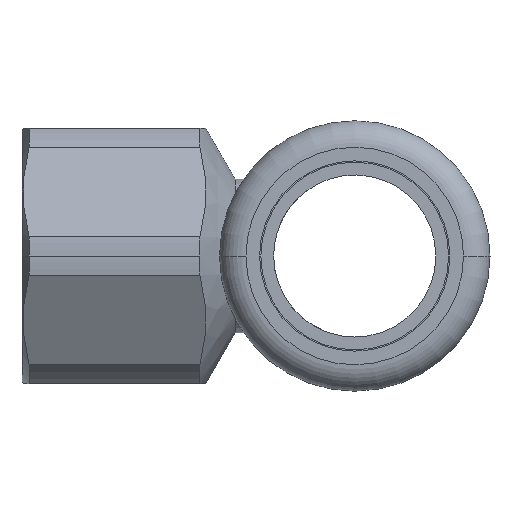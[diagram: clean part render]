
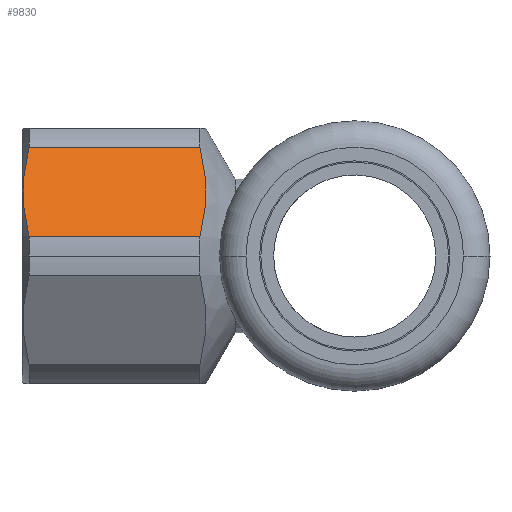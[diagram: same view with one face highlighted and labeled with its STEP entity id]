
A CAD part, left-side view. The second image highlights one B-rep face of the part: STEP entity #9830.
In plain terms, the highlighted planar face has unit normal (-0.866, 0, 0.5) as drawn and (0, -0.866, 0.5) by its records, which use the part's own axes.
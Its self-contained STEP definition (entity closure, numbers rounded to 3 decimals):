
#3220=CARTESIAN_POINT('',(-339.088,25.435,
0.));
#3230=DIRECTION('',(-1.,0.,0.));
#3240=DIRECTION('',(0.,0.,-1.));
#3250=AXIS2_PLACEMENT_3D('',#3220,#3230,#3240);
#3260=CONICAL_SURFACE('',#3250,19.04,1.047);
#3680=CARTESIAN_POINT('',(-355.937,25.435,0.));
#3690=DIRECTION('',(1.,0.,0.));
#3700=DIRECTION('',(0.,-1.,0.));
#3710=AXIS2_PLACEMENT_3D('',#3680,#3690,#3700);
#3720=CONICAL_SURFACE('',#3710,18.828,1.047);
#8500=CARTESIAN_POINT('',(-341.991,15.477,
12.753));
#8510=DIRECTION('',(0.,-0.866,0.5));
#8520=DIRECTION('',(0.,-0.5,-0.866));
#8530=AXIS2_PLACEMENT_3D('',#8500,#8510,#8520);
#8540=PLANE('',#8530);
#8550=CARTESIAN_POINT('',(-341.991,9.411,
2.247));
#8560=DIRECTION('',(-1.,0.,0.));
#8570=VECTOR('',#8560,1.);
#8580=LINE('',#8550,#8570);
#8590=CARTESIAN_POINT('',(-337.436,9.411,
2.247));
#8600=VERTEX_POINT('',#8590);
#8610=CARTESIAN_POINT('',(-357.465,9.411,
2.247));
#8620=VERTEX_POINT('',#8610);
#8630=EDGE_CURVE('',#8600,#8620,#8580,.T.);
#8640=ORIENTED_EDGE('',*,*,#8630,.F.);
#8650=CARTESIAN_POINT('',(-357.465,15.477,
12.753));
#8660=CARTESIAN_POINT('',(-357.519,15.353,
12.538));
#8670=CARTESIAN_POINT('',(-357.57,15.228,
12.322));
#8680=CARTESIAN_POINT('',(-357.619,15.103,
12.105));
#8690=CARTESIAN_POINT('',(-357.667,14.978,
11.889));
#8700=CARTESIAN_POINT('',(-357.712,14.853,
11.672));
#8710=CARTESIAN_POINT('',(-357.754,14.727,
11.454));
#8720=CARTESIAN_POINT('',(-357.797,14.601,
11.236));
#8730=CARTESIAN_POINT('',(-357.836,14.475,
11.018));
#8740=CARTESIAN_POINT('',(-357.872,14.349,
10.799));
#8750=CARTESIAN_POINT('',(-357.908,14.223,
10.58));
#8760=CARTESIAN_POINT('',(-357.94,14.096,
10.361));
#8770=CARTESIAN_POINT('',(-357.969,13.969,
10.142));
#8780=CARTESIAN_POINT('',(-357.999,13.843,
9.922));
#8790=CARTESIAN_POINT('',(-358.024,13.716,
9.702));
#8800=CARTESIAN_POINT('',(-358.046,13.589,
9.482));
#8810=CARTESIAN_POINT('',(-358.069,13.461,
9.262));
#8820=CARTESIAN_POINT('',(-358.087,13.334,
9.042));
#8830=CARTESIAN_POINT('',(-358.102,13.207,
8.821));
#8840=CARTESIAN_POINT('',(-358.117,13.08,
8.601));
#8850=CARTESIAN_POINT('',(-358.128,12.952,
8.38));
#8860=CARTESIAN_POINT('',(-358.136,12.825,
8.16));
#8870=CARTESIAN_POINT('',(-358.143,12.698,
7.939));
#8880=CARTESIAN_POINT('',(-358.147,12.57,
7.719));
#8890=CARTESIAN_POINT('',(-358.147,12.443,
7.498));
#8900=CARTESIAN_POINT('',(-358.147,12.316,
7.278));
#8910=CARTESIAN_POINT('',(-358.143,12.189,
7.057));
#8920=CARTESIAN_POINT('',(-358.135,12.062,
6.837));
#8930=CARTESIAN_POINT('',(-358.128,11.935,
6.617));
#8940=CARTESIAN_POINT('',(-358.117,11.808,
6.397));
#8950=CARTESIAN_POINT('',(-358.102,11.681,
6.177));
#8960=CARTESIAN_POINT('',(-358.087,11.554,
5.958));
#8970=CARTESIAN_POINT('',(-358.069,11.427,
5.738));
#8980=CARTESIAN_POINT('',(-358.047,11.3,
5.518));
#8990=CARTESIAN_POINT('',(-358.024,11.173,
5.298));
#9000=CARTESIAN_POINT('',(-357.999,11.046,
5.079));
#9010=CARTESIAN_POINT('',(-357.97,10.92,
4.86));
#9020=CARTESIAN_POINT('',(-357.941,10.793,
4.641));
#9030=CARTESIAN_POINT('',(-357.908,10.667,
4.422));
#9040=CARTESIAN_POINT('',(-357.872,10.541,
4.203));
#9050=CARTESIAN_POINT('',(-357.836,10.414,
3.984));
#9060=CARTESIAN_POINT('',(-357.797,10.288,
3.766));
#9070=CARTESIAN_POINT('',(-357.755,10.163,
3.548));
#9080=CARTESIAN_POINT('',(-357.713,10.037,
3.33));
#9090=CARTESIAN_POINT('',(-357.667,9.911,
3.113));
#9100=CARTESIAN_POINT('',(-357.619,9.786,
2.896));
#9110=CARTESIAN_POINT('',(-357.571,9.661,
2.679));
#9120=CARTESIAN_POINT('',(-357.519,9.536,
2.463));
#9130=CARTESIAN_POINT('',(-357.465,9.411,
2.247));
#9140=B_SPLINE_CURVE_WITH_KNOTS('',3,(#8650,#8660,#8670,#8680,#8690,
#8700,#8710,#8720,#8730,#8740,#8750,#8760,#8770,#8780,#8790,#8800,#8810,
#8820,#8830,#8840,#8850,#8860,#8870,#8880,#8890,#8900,#8910,#8920,#8930,
#8940,#8950,#8960,#8970,#8980,#8990,#9000,#9010,#9020,#9030,#9040,#9050,
#9060,#9070,#9080,#9090,#9100,#9110,#9120,#9130),.UNSPECIFIED.,.F.,.F.,(
4,3,3,3,3,3,3,3,3,3,3,3,3,3,3,3,4),(0.,0.763,
1.528,2.293,3.058,3.824,
4.589,5.354,6.118,6.881,
7.644,8.407,9.171,9.936,
10.701,11.466,12.231),.UNSPECIFIED.);
#9150=SURFACE_CURVE('',#9140,(#8540,#3720),.CURVE_3D.);
#9160=CARTESIAN_POINT('',(-357.465,15.477,
12.753));
#9170=VERTEX_POINT('',#9160);
#9180=EDGE_CURVE('',#9170,#8620,#9150,.T.);
#9190=ORIENTED_EDGE('',*,*,#9180,.T.);
#9200=CARTESIAN_POINT('',(-341.991,15.477,
12.753));
#9210=DIRECTION('',(-1.,0.,0.));
#9220=VECTOR('',#9210,1.);
#9230=LINE('',#9200,#9220);
#9240=CARTESIAN_POINT('',(-337.436,15.477,
12.753));
#9250=VERTEX_POINT('',#9240);
#9260=EDGE_CURVE('',#9250,#9170,#9230,.T.);
#9270=ORIENTED_EDGE('',*,*,#9260,.T.);
#9280=CARTESIAN_POINT('',(-337.436,9.411,
2.247));
#9290=CARTESIAN_POINT('',(-337.382,9.536,
2.463));
#9300=CARTESIAN_POINT('',(-337.331,9.661,
2.679));
#9310=CARTESIAN_POINT('',(-337.283,9.786,
2.896));
#9320=CARTESIAN_POINT('',(-337.235,9.911,
3.113));
#9330=CARTESIAN_POINT('',(-337.189,10.037,
3.33));
#9340=CARTESIAN_POINT('',(-337.147,10.163,
3.548));
#9350=CARTESIAN_POINT('',(-337.105,10.288,
3.766));
#9360=CARTESIAN_POINT('',(-337.066,10.414,
3.984));
#9370=CARTESIAN_POINT('',(-337.03,10.541,
4.203));
#9380=CARTESIAN_POINT('',(-336.994,10.667,
4.422));
#9390=CARTESIAN_POINT('',(-336.961,10.793,
4.64));
#9400=CARTESIAN_POINT('',(-336.932,10.92,
4.86));
#9410=CARTESIAN_POINT('',(-336.903,11.046,
5.079));
#9420=CARTESIAN_POINT('',(-336.877,11.173,
5.298));
#9430=CARTESIAN_POINT('',(-336.855,11.3,
5.518));
#9440=CARTESIAN_POINT('',(-336.833,11.427,
5.738));
#9450=CARTESIAN_POINT('',(-336.815,11.554,
5.957));
#9460=CARTESIAN_POINT('',(-336.8,11.68,
6.177));
#9470=CARTESIAN_POINT('',(-336.785,11.807,
6.397));
#9480=CARTESIAN_POINT('',(-336.774,11.934,
6.617));
#9490=CARTESIAN_POINT('',(-336.766,12.061,
6.837));
#9500=CARTESIAN_POINT('',(-336.759,12.189,
7.057));
#9510=CARTESIAN_POINT('',(-336.755,12.316,
7.278));
#9520=CARTESIAN_POINT('',(-336.755,12.443,
7.498));
#9530=CARTESIAN_POINT('',(-336.755,12.57,
7.718));
#9540=CARTESIAN_POINT('',(-336.759,12.698,
7.939));
#9550=CARTESIAN_POINT('',(-336.766,12.825,
8.159));
#9560=CARTESIAN_POINT('',(-336.774,12.952,
8.38));
#9570=CARTESIAN_POINT('',(-336.785,13.08,
8.601));
#9580=CARTESIAN_POINT('',(-336.8,13.207,
8.821));
#9590=CARTESIAN_POINT('',(-336.815,13.334,
9.042));
#9600=CARTESIAN_POINT('',(-336.833,13.461,
9.262));
#9610=CARTESIAN_POINT('',(-336.855,13.588,
9.482));
#9620=CARTESIAN_POINT('',(-336.878,13.716,
9.702));
#9630=CARTESIAN_POINT('',(-336.903,13.843,
9.922));
#9640=CARTESIAN_POINT('',(-336.932,13.969,
10.142));
#9650=CARTESIAN_POINT('',(-336.962,14.096,
10.361));
#9660=CARTESIAN_POINT('',(-336.994,14.223,
10.58));
#9670=CARTESIAN_POINT('',(-337.03,14.349,
10.799));
#9680=CARTESIAN_POINT('',(-337.066,14.475,
11.018));
#9690=CARTESIAN_POINT('',(-337.105,14.601,
11.236));
#9700=CARTESIAN_POINT('',(-337.147,14.727,
11.454));
#9710=CARTESIAN_POINT('',(-337.19,14.853,
11.672));
#9720=CARTESIAN_POINT('',(-337.235,14.978,
11.889));
#9730=CARTESIAN_POINT('',(-337.283,15.103,
12.105));
#9740=CARTESIAN_POINT('',(-337.332,15.228,
12.322));
#9750=CARTESIAN_POINT('',(-337.383,15.353,
12.538));
#9760=CARTESIAN_POINT('',(-337.436,15.477,
12.753));
#9770=B_SPLINE_CURVE_WITH_KNOTS('',3,(#9280,#9290,#9300,#9310,#9320,
#9330,#9340,#9350,#9360,#9370,#9380,#9390,#9400,#9410,#9420,#9430,#9440,
#9450,#9460,#9470,#9480,#9490,#9500,#9510,#9520,#9530,#9540,#9550,#9560,
#9570,#9580,#9590,#9600,#9610,#9620,#9630,#9640,#9650,#9660,#9670,#9680,
#9690,#9700,#9710,#9720,#9730,#9740,#9750,#9760),.UNSPECIFIED.,.F.,.F.,(
4,3,3,3,3,3,3,3,3,3,3,3,3,3,3,3,4),(0.,0.765,
1.53,2.295,3.06,3.824,
4.587,5.35,6.113,6.877,
7.642,8.407,9.173,9.938,
10.703,11.468,12.231),.UNSPECIFIED.);
#9780=SURFACE_CURVE('',#9770,(#8540,#3260),.CURVE_3D.);
#9790=EDGE_CURVE('',#8600,#9250,#9780,.T.);
#9800=ORIENTED_EDGE('',*,*,#9790,.T.);
#9810=EDGE_LOOP('',(#9800,#9270,#9190,#8640));
#9820=FACE_OUTER_BOUND('',#9810,.T.);
#9830=ADVANCED_FACE('',(#9820),#8540,.T.);
